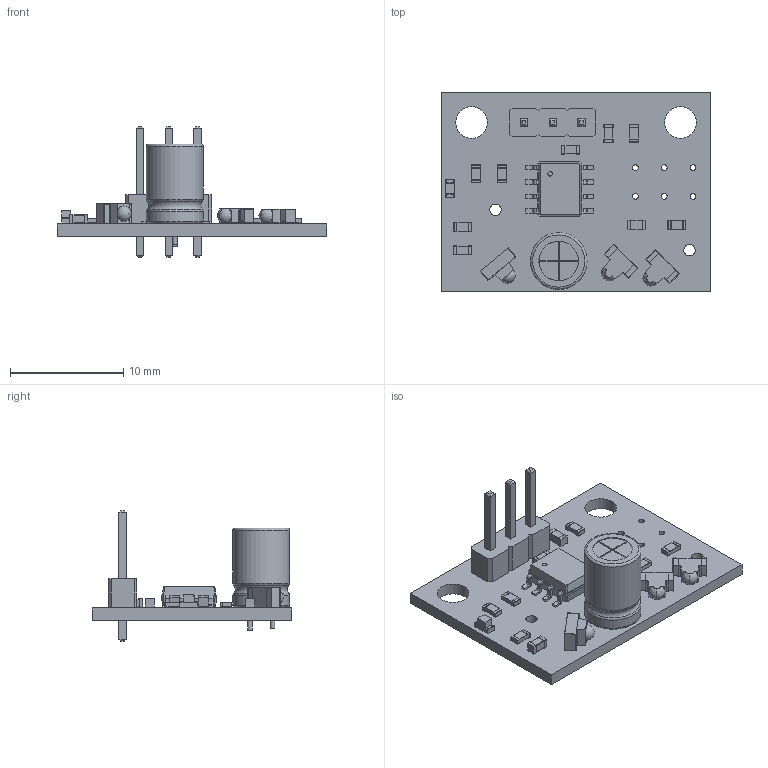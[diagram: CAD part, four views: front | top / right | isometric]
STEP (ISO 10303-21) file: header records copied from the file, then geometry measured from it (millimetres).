
FILE_DESCRIPTION(/* description */ ('KiCad electronic assembly'),/* implementation_level */ '2;1');
FILE_NAME(/* name */ 'Duet IR Height Sensor.step',/* time_stamp */ '2025-09-24T11:09:28+03:00',/* author */ (''),/* organization */ (''),/* preprocessor_version */ 'ST-DEVELOPER v20.1',/* originating_system */ 'Autodesk Translation Framework v14.17.0.0',/* authorisation */ '');
FILE_SCHEMA (('AUTOMOTIVE_DESIGN { 1 0 10303 214 3 1 1 }'));
Length unit declared in the file: millimetre
Products named in the file (20): MiniLedSensor 1; L_0603_1608Metric; SOLID; C_Radial_D5.0mm_H7.0mm_P2.00mm; SOLID_1; LED_0603_1608Metric; SOLID_2; PinHeader_1x03_P2.54mm_Vertical; SOLID_3; SO-8_3.9x4.9mm_P1.27mm; COMPOUND; Osram SFH 3015 FA--3DModel-STEP-56544; COMPOUND_1; _autosave-MiniLedSensor PCB; C_0603_1608Metric; SOLID_4; R_0603_1608Metric; SOLID_5; Osram SFH 4045N--3dmodel-step-56544; COMPOUND_2
Assembly tree (26 placements, depth 3):
  MiniLedSensor 1
    C_0603_1608Metric  x2
      SOLID_4
    L_0603_1608Metric
      SOLID
    C_Radial_D5.0mm_H7.0mm_P2.00mm
      SOLID_1
    Osram SFH 4045N--3dmodel-step-56544  x2
      COMPOUND_2
    R_0603_1608Metric  x6
      SOLID_5
    LED_0603_1608Metric
      SOLID_2
    PinHeader_1x03_P2.54mm_Vertical
      SOLID_3
    SO-8_3.9x4.9mm_P1.27mm
      COMPOUND
    Osram SFH 3015 FA--3DModel-STEP-56544
      COMPOUND_1
    _autosave-MiniLedSensor PCB
Bounding box: 23.8 x 17.6 x 11.54 mm (x, y, z)
Volume: 679.9 mm3; surface area: 1547.2 mm2
Topology: 41 solids, 42 shells, 883 faces, 2231 edges, 1446 vertices
Faces by surface type: plane 721, cylinder 152, bspline 6, torus 3, sphere 1
Full cylindrical faces by diameter (mm): 0.4 x4, 0.508 x6, 0.813 x2, 1 x2, 1.016 x3, 2.8 x2, 3.5 x3, 5 x2
Entity records: 19532 total; most frequent: CARTESIAN_POINT 3555, ORIENTED_EDGE 3112, DIRECTION 3109, EDGE_CURVE 1556, LINE 1327, VECTOR 1327, VERTEX_POINT 1009, AXIS2_PLACEMENT_3D 891
